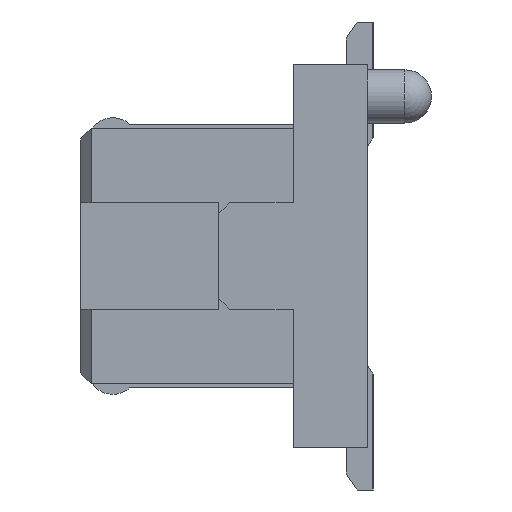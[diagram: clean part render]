
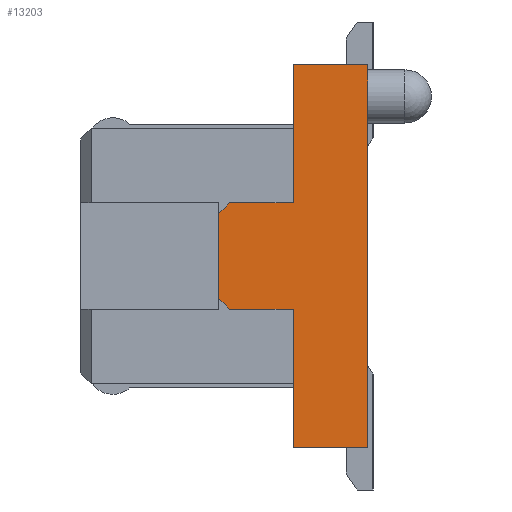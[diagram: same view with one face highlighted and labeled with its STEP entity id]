
A CAD part, left-side view. The second image highlights one B-rep face of the part: STEP entity #13203.
In plain terms, the highlighted planar face has unit normal (-1, 0, 0).
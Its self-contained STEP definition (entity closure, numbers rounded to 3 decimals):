
#98 = ORIENTED_EDGE ( 'NONE', *, *, #47269, .T. ) ;
#879 = ORIENTED_EDGE ( 'NONE', *, *, #8710, .F. ) ;
#1246 = CARTESIAN_POINT ( 'NONE',  ( -2.3, 0., 1.8 ) ) ;
#2499 = CARTESIAN_POINT ( 'NONE',  ( -2.3, 0., -1.8 ) ) ;
#2500 = EDGE_CURVE ( 'NONE', #46219, #47316, #45615, .T. ) ;
#3819 = ORIENTED_EDGE ( 'NONE', *, *, #2500, .T. ) ;
#3942 = ORIENTED_EDGE ( 'NONE', *, *, #31447, .T. ) ;
#4725 = VECTOR ( 'NONE', #36418, 1000. ) ;
#5259 = CARTESIAN_POINT ( 'NONE',  ( -2.3, 1.3, 0.5 ) ) ;
#5490 = VERTEX_POINT ( 'NONE', #52452 ) ;
#5613 = EDGE_CURVE ( 'NONE', #37158, #41618, #20697, .T. ) ;
#7885 = EDGE_CURVE ( 'NONE', #5490, #31996, #38300, .T. ) ;
#8023 = CARTESIAN_POINT ( 'NONE',  ( -2.3, 0.7, 1.8 ) ) ;
#8031 = CARTESIAN_POINT ( 'NONE',  ( -2.3, 0.7, 0.5 ) ) ;
#8710 = EDGE_CURVE ( 'NONE', #41618, #11041, #53202, .T. ) ;
#8849 = DIRECTION ( 'NONE',  ( 0., 0., 1. ) ) ;
#9701 = DIRECTION ( 'NONE',  ( 0., 0.707, -0.707 ) ) ;
#9831 = ORIENTED_EDGE ( 'NONE', *, *, #7885, .F. ) ;
#10897 = DIRECTION ( 'NONE',  ( 0., 0., 1. ) ) ;
#11041 = VERTEX_POINT ( 'NONE', #30944 ) ;
#11690 = VERTEX_POINT ( 'NONE', #1246 ) ;
#12276 = VERTEX_POINT ( 'NONE', #20551 ) ;
#12711 = DIRECTION ( 'NONE',  ( 0., 0., 1. ) ) ;
#13203 = ADVANCED_FACE ( 'NONE', ( #13702 ), #43191, .T. ) ;
#13702 = FACE_OUTER_BOUND ( 'NONE', #31938, .T. ) ;
#14566 = AXIS2_PLACEMENT_3D ( 'NONE', #22060, #39017, #26492 ) ;
#16335 = ORIENTED_EDGE ( 'NONE', *, *, #21903, .T. ) ;
#16788 = ORIENTED_EDGE ( 'NONE', *, *, #5613, .F. ) ;
#16792 = CARTESIAN_POINT ( 'NONE',  ( -2.3, 1.4, 0.4 ) ) ;
#17003 = EDGE_CURVE ( 'NONE', #46219, #41334, #50842, .T. ) ;
#18196 = VECTOR ( 'NONE', #12711, 1000. ) ;
#20551 = CARTESIAN_POINT ( 'NONE',  ( -2.3, 0., 1.5 ) ) ;
#20697 = LINE ( 'NONE', #37664, #32577 ) ;
#20892 = VECTOR ( 'NONE', #24749, 1000. ) ;
#21903 = EDGE_CURVE ( 'NONE', #12276, #11690, #47078, .T. ) ;
#22060 = CARTESIAN_POINT ( 'NONE',  ( -2.3, 0., -1.8 ) ) ;
#23440 = CARTESIAN_POINT ( 'NONE',  ( -2.3, 0.7, -0.5 ) ) ;
#24749 = DIRECTION ( 'NONE',  ( 0., 1., 0. ) ) ;
#25392 = VECTOR ( 'NONE', #36519, 1000. ) ;
#25428 = VECTOR ( 'NONE', #27168, 1000. ) ;
#25657 = DIRECTION ( 'NONE',  ( 0., 0., 1. ) ) ;
#26492 = DIRECTION ( 'NONE',  ( 0., 0., 1. ) ) ;
#27168 = DIRECTION ( 'NONE',  ( 0., 1., 0. ) ) ;
#27229 = LINE ( 'NONE', #2499, #4725 ) ;
#27314 = EDGE_CURVE ( 'NONE', #5490, #33733, #33609, .T. ) ;
#28929 = VECTOR ( 'NONE', #9701, 1000. ) ;
#28963 = ORIENTED_EDGE ( 'NONE', *, *, #46823, .F. ) ;
#29278 = CARTESIAN_POINT ( 'NONE',  ( -2.3, 0., 1.5 ) ) ;
#30944 = CARTESIAN_POINT ( 'NONE',  ( -2.3, 0.7, -0.5 ) ) ;
#31342 = VECTOR ( 'NONE', #8849, 1000. ) ;
#31447 = EDGE_CURVE ( 'NONE', #37158, #12276, #27229, .T. ) ;
#31897 = CARTESIAN_POINT ( 'NONE',  ( -2.3, 0.7, -1.8 ) ) ;
#31938 = EDGE_LOOP ( 'NONE', ( #16335, #98, #42493, #3819, #41070, #9831, #53758, #28963, #879, #16788, #3942 ) ) ;
#31996 = VERTEX_POINT ( 'NONE', #16792 ) ;
#32032 = CARTESIAN_POINT ( 'NONE',  ( -2.3, 0.7, -1.8 ) ) ;
#32577 = VECTOR ( 'NONE', #46293, 1000. ) ;
#33349 = CARTESIAN_POINT ( 'NONE',  ( -2.3, 0.7, 0.5 ) ) ;
#33609 = LINE ( 'NONE', #39393, #52080 ) ;
#33733 = VERTEX_POINT ( 'NONE', #38391 ) ;
#35870 = VECTOR ( 'NONE', #10897, 1000. ) ;
#36255 = LINE ( 'NONE', #23440, #25392 ) ;
#36418 = DIRECTION ( 'NONE',  ( 0., 0., 1. ) ) ;
#36519 = DIRECTION ( 'NONE',  ( 0., 1., 0. ) ) ;
#37158 = VERTEX_POINT ( 'NONE', #44030 ) ;
#37664 = CARTESIAN_POINT ( 'NONE',  ( -2.3, 0., -1.8 ) ) ;
#38300 = LINE ( 'NONE', #42496, #18196 ) ;
#38391 = CARTESIAN_POINT ( 'NONE',  ( -2.3, 1.3, -0.5 ) ) ;
#39017 = DIRECTION ( 'NONE',  ( -1., 0., 0. ) ) ;
#39393 = CARTESIAN_POINT ( 'NONE',  ( -2.3, 1.4, -0.4 ) ) ;
#39406 = LINE ( 'NONE', #43867, #25428 ) ;
#41070 = ORIENTED_EDGE ( 'NONE', *, *, #46334, .T. ) ;
#41334 = VERTEX_POINT ( 'NONE', #8023 ) ;
#41618 = VERTEX_POINT ( 'NONE', #31897 ) ;
#41974 = CARTESIAN_POINT ( 'NONE',  ( -2.3, 0.7, 0.5 ) ) ;
#42493 = ORIENTED_EDGE ( 'NONE', *, *, #17003, .F. ) ;
#42496 = CARTESIAN_POINT ( 'NONE',  ( -2.3, 1.4, -0.4 ) ) ;
#43191 = PLANE ( 'NONE',  #14566 ) ;
#43867 = CARTESIAN_POINT ( 'NONE',  ( -2.3, 0., 1.8 ) ) ;
#44030 = CARTESIAN_POINT ( 'NONE',  ( -2.3, 0., -1.8 ) ) ;
#45615 = LINE ( 'NONE', #41974, #20892 ) ;
#46219 = VERTEX_POINT ( 'NONE', #33349 ) ;
#46293 = DIRECTION ( 'NONE',  ( 0., 1., 0. ) ) ;
#46334 = EDGE_CURVE ( 'NONE', #47316, #31996, #51443, .T. ) ;
#46823 = EDGE_CURVE ( 'NONE', #11041, #33733, #36255, .T. ) ;
#47078 = LINE ( 'NONE', #29278, #51481 ) ;
#47269 = EDGE_CURVE ( 'NONE', #11690, #41334, #39406, .T. ) ;
#47316 = VERTEX_POINT ( 'NONE', #48327 ) ;
#48327 = CARTESIAN_POINT ( 'NONE',  ( -2.3, 1.3, 0.5 ) ) ;
#50842 = LINE ( 'NONE', #8031, #31342 ) ;
#51411 = DIRECTION ( 'NONE',  ( 0., -0.707, -0.707 ) ) ;
#51443 = LINE ( 'NONE', #5259, #28929 ) ;
#51481 = VECTOR ( 'NONE', #25657, 1000. ) ;
#52080 = VECTOR ( 'NONE', #51411, 1000. ) ;
#52452 = CARTESIAN_POINT ( 'NONE',  ( -2.3, 1.4, -0.4 ) ) ;
#53202 = LINE ( 'NONE', #32032, #35870 ) ;
#53758 = ORIENTED_EDGE ( 'NONE', *, *, #27314, .T. ) ;
